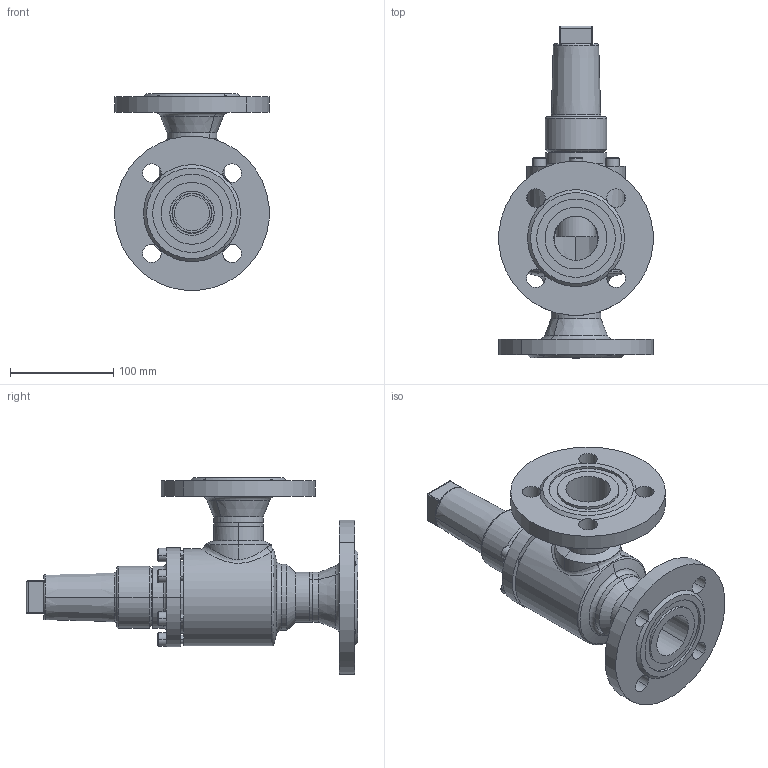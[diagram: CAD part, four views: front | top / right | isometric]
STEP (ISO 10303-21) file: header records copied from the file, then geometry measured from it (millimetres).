
FILE_DESCRIPTION (( 'STEP AP214' ), '1' );
FILE_NAME ('AVB16420D14-DN040_DIN-FL-N_PS40.STEP', '2006-04-27T12:29:21', ( 'Herr Grams' ), ( 'AWP GmbH' ), 'SwSTEP 2.0', 'SolidWorks 2002296', '' );
FILE_SCHEMA (( 'AUTOMOTIVE_DESIGN' ));
Length unit declared in the file: millimetre
Products named in the file (10): AVB16420D14-DN040_DIN-FL-N_PS40; Kappe16402_DN040-65_Standard; AVB16300E15_Deck+Schr-DN40-50_Standard; Deckel16300E15-DN40-50_Standard; Zylinderschraube-DIN912_M 8x 25; Gehäuse-kpl16420-DN040_DIN_PS40_Standard; bead16420-Geh-040-2_Standard; bead16420-Geh-040-1_Standard; Gehäuse16400-DN040_Standard; Flansch-DIN2635-Nut_PS40_DIN-Flansch-DN040_PS40-Nut
Assembly tree (15 placements, depth 3):
  AVB16420D14-DN040_DIN-FL-N_PS40
    Kappe16402_DN040-65_Standard
    Gehäuse-kpl16420-DN040_DIN_PS40_Standard
      Gehäuse16400-DN040_Standard
      bead16420-Geh-040-2_Standard
      bead16420-Geh-040-1_Standard
      Flansch-DIN2635-Nut_PS40_DIN-Flansch-DN040_PS40-Nut  x2
    AVB16300E15_Deck+Schr-DN40-50_Standard
      Zylinderschraube-DIN912_M 8x 25  x6
      Deckel16300E15-DN40-50_Standard
Bounding box: 149.43 x 322 x 190.71 mm (x, y, z)
Volume: 1251493.8 mm3; surface area: 253607.3 mm2
Topology: 13 solids, 13 shells, 337 faces, 769 edges, 482 vertices
Faces by surface type: cylinder 133, plane 107, cone 55, torus 31, bspline 11
Entity records: 18757 total; most frequent: CARTESIAN_POINT 13077, DIRECTION 1109, ORIENTED_EDGE 994, EDGE_CURVE 497, AXIS2_PLACEMENT_3D 473, VERTEX_POINT 310, EDGE_LOOP 259, CIRCLE 249
